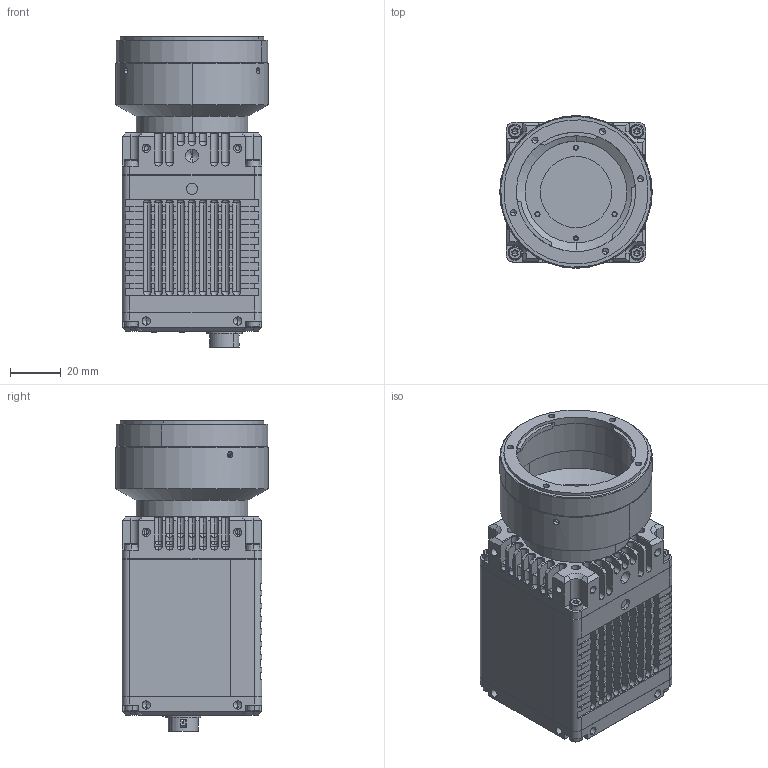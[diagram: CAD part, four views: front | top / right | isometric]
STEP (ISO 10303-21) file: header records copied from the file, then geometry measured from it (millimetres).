
FILE_DESCRIPTION (( 'STEP AP214' ), '1' );
FILE_NAME ('4068081_Goldeye G-008 SWIR TEC1 F-Mount.STEP', '2023-07-28T09:59:10', ( '' ), ( '' ), 'SwSTEP 2.0', 'SolidWorks 2021', '' );
FILE_SCHEMA (( 'AUTOMOTIVE_DESIGN' ));
Length unit declared in the file: millimetre
Products named in the file (1): 4068081_Goldeye G-008 SWIR TEC1 F-Mount
Bounding box: 60 x 60 x 122.14 mm (x, y, z)
Surface area: 94515.7 mm2 (no closed solid volume)
Topology: 0 solids, 59 shells, 3956 faces, 10537 edges, 6624 vertices
Faces by surface type: plane 1790, cylinder 1306, bspline 405, cone 288, sphere 100, torus 67
Entity records: 178136 total; most frequent: CARTESIAN_POINT 38123, ORIENTED_EDGE 20626, DIRECTION 18951, EDGE_CURVE 10313, VERTEX_POINT 6610, VECTOR 6467, LINE 6467, AXIS2_PLACEMENT_3D 6242
